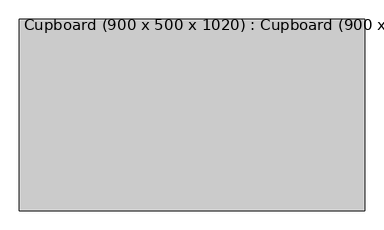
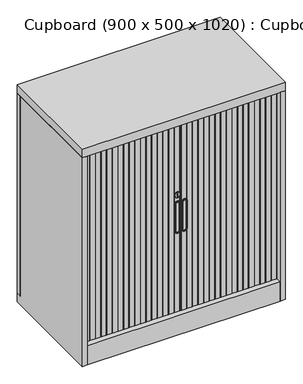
"""IFC4 building model written with IfcOpenShell, lengths in millimetres: furniture geometry, Cupboard (900 x 500 x 1020) : Cupboard (900 x 500 x 1020)."""

from ifc_helpers import new_model, si_unit, point, frame, frame_2d, origin, origin_with_axes, place, context, project, spatial, polyline, circle_curve, ellipse_curve, trimmed, segment, composite_curve, outline, extrude, faceted_brep, source, transform, mapped, element, save
from ifc_brep_helpers import plane_surface, cylinder_surface, revolved_surface, advanced_brep


def cupboard_900_x_500_x_1020_cupboard_900_x_500_x_1020_58e128f4(model_context):
    return source(origin(), model_context, "Body", "SolidModel", [
        advanced_brep(
        [(26.5273848, -229.0, 471.9022034), (26.5273848, -229.0, 598.0527572), (4.5273848, -229.0, 598.0527572), (4.5273848, -229.0, 471.9022034), (6.5273848, -229.0, 472.046184), (6.5273848, -229.0, 598.0415606), (24.5273848, -229.0, 598.0415606), (24.5273848, -229.0, 472.046184), (3.5273848, -228.0, 471.9022034), (3.5273848, -226.0, 471.9022034), (27.5273848, -226.0, 471.9022034), (27.5273848, -228.0, 471.9022034), (27.5273848, -220.0, 471.9022034), (27.5273848, -220.0, 598.0527572), (27.5273848, -226.0, 598.0527572), (27.5273848, -228.0, 598.0527572), (3.5273848, -226.0, 598.0527572), (3.5273848, -228.0, 598.0527572), (3.5273848, -220.0, 598.0527572), (3.5273848, -220.0, 471.9022034), (7.5273848, -228.0, 598.0415606), (7.5273848, -226.0, 598.0415606), (23.5273848, -226.0, 598.0415606), (23.5273848, -228.0, 598.0415606), (23.5273848, -226.0, 472.046184), (23.5273848, -228.0, 472.046184), (7.5273848, -226.0, 472.046184), (7.5273848, -228.0, 472.046184)],
        [
            (0, 1),
            (1, 2, circle_curve(frame((15.5273848, -229.0, 598.0527572), z_axis=(0.0, -1.0, 0.0), x_axis=(-1.0, 0.0, 0.0)), 11.0)),
            (2, 3),
            (3, 0, circle_curve(frame((15.5273848, -229.0, 471.9022034), z_axis=(0.0, -1.0, 0.0), x_axis=(1.0, 0.0, 0.0)), 11.0)),
            (4, 5),
            (5, 6, circle_curve(frame((15.5273848, -229.0, 598.0415606), z_axis=(0.0, 1.0, 0.0), x_axis=(1.0, 0.0, 0.0)), 9.0)),
            (6, 7),
            (7, 4, circle_curve(frame((15.5273848, -229.0, 472.046184), z_axis=(0.0, 1.0, 0.0), x_axis=(-1.0, 0.0, 0.0)), 9.0)),
            (8, 9),
            (9, 10, circle_curve(frame((15.5273848, -226.0, 471.9022034), z_axis=(0.0, -1.0, 0.0), x_axis=(1.0, 0.0, 0.0)), 12.0)),
            (10, 11),
            (11, 8, circle_curve(frame((15.5273848, -228.0, 471.9022034), z_axis=(0.0, 1.0, 0.0), x_axis=(1.0, 0.0, 0.0)), 12.0)),
            (10, 12),
            (12, 13),
            (13, 14),
            (14, 15),
            (15, 11),
            (14, 16, circle_curve(frame((15.5273848, -226.0, 598.0527572), z_axis=(0.0, -1.0, 0.0), x_axis=(1.0, 0.0, 0.0)), 12.0)),
            (16, 17),
            (17, 15, circle_curve(frame((15.5273848, -228.0, 598.0527572), z_axis=(0.0, 1.0, 0.0), x_axis=(1.0, 0.0, 0.0)), 12.0)),
            (8, 17),
            (16, 18),
            (18, 19),
            (19, 9),
            (20, 21),
            (21, 22, circle_curve(frame((15.5273848, -226.0, 598.0415606), z_axis=(0.0, 1.0, 0.0), x_axis=(1.0, 0.0, 0.0)), 8.0)),
            (22, 23),
            (23, 20, circle_curve(frame((15.5273848, -228.0, 598.0415606), z_axis=(0.0, -1.0, 0.0), x_axis=(1.0, 0.0, 0.0)), 8.0)),
            (22, 24),
            (24, 25),
            (25, 23),
            (24, 26, circle_curve(frame((15.5273848, -226.0, 472.046184), z_axis=(0.0, 1.0, 0.0), x_axis=(1.0, 0.0, 0.0)), 8.0)),
            (26, 27),
            (27, 25, circle_curve(frame((15.5273848, -228.0, 472.046184), z_axis=(0.0, -1.0, 0.0), x_axis=(1.0, 0.0, 0.0)), 8.0)),
            (20, 27),
            (26, 21),
            (4, 27, circle_curve(frame((6.5273848, -228.0, 472.046184), z_axis=(0.0, 0.0, 1.0), x_axis=(-1.0, 0.0, 0.0)), 1.0)),
            (20, 5, circle_curve(frame((6.5273848, -228.0, 598.0415606), z_axis=(0.0, 0.0, -1.0), x_axis=(-1.0, 0.0, 0.0)), 1.0)),
            (7, 25, circle_curve(frame((24.5273848, -228.0, 472.046184), z_axis=(0.0, 0.0, -1.0), x_axis=(1.0, 0.0, 0.0)), 1.0)),
            (6, 23, circle_curve(frame((24.5273848, -228.0, 598.0415606), z_axis=(0.0, 0.0, -1.0), x_axis=(1.0, 0.0, 0.0)), 1.0)),
            (0, 11, circle_curve(frame((26.5273848, -228.0, 471.9022034), z_axis=(0.0, 0.0, 1.0), x_axis=(1.0, 0.0, 0.0)), 1.0)),
            (15, 1, circle_curve(frame((26.5273848, -228.0, 598.0527572), z_axis=(0.0, 0.0, -1.0), x_axis=(1.0, 0.0, 0.0)), 1.0)),
            (3, 8, circle_curve(frame((4.5273848, -228.0, 471.9022034), z_axis=(0.0, 0.0, -1.0), x_axis=(-1.0, 0.0, 0.0)), 1.0)),
            (2, 17, circle_curve(frame((4.5273848, -228.0, 598.0527572), z_axis=(0.0, 0.0, -1.0), x_axis=(-1.0, 0.0, 0.0)), 1.0)),
            (18, 13, circle_curve(frame((15.5273848, -220.0, 598.0527572), z_axis=(0.0, 1.0, 0.0), x_axis=(1.0, 0.0, 0.0)), 12.0)),
            (12, 19, circle_curve(frame((15.5273848, -220.0, 471.9022034), z_axis=(0.0, 1.0, 0.0), x_axis=(1.0, 0.0, 0.0)), 12.0)),
        ],
        [
            plane_surface(frame((27.5273848, -229.0, 471.9022034), z_axis=(0.0, -1.0, 0.0), x_axis=(0.0, 0.0, 1.0))),
            cylinder_surface(frame((15.5273848, -226.0, 471.9022034), z_axis=(0.0, -1.0, 0.0), x_axis=(1.0, 0.0, 0.0)), 12.0),
            plane_surface(frame((27.5273848, -229.0, 471.9022034), z_axis=(1.0, 0.0, 0.0), x_axis=(0.0, 1.0, 0.0))),
            cylinder_surface(frame((15.5273848, -226.0, 598.0527572), z_axis=(0.0, -1.0, 0.0), x_axis=(1.0, 0.0, 0.0)), 12.0),
            plane_surface(frame((3.5273848, -229.0, 598.0527572), z_axis=(-1.0, 0.0, 0.0), x_axis=(0.0, 1.0, 0.0))),
            revolved_surface(polyline([(23.5273848, -226.0, 598.0415606), (23.5273848, -228.0, 598.0415606)]), (15.5273848, -229.0, 598.0415606), (0.0, 1.0, 0.0)),
            plane_surface(frame((23.5273848, -229.0, 598.0415606), z_axis=(-1.0, 0.0, 0.0), x_axis=(0.0, 1.0, 0.0))),
            revolved_surface(polyline([(23.5273848, -226.0, 472.046184), (23.5273848, -228.0, 472.046184)]), (15.5273848, -229.0, 472.046184), (0.0, 1.0, 0.0)),
            plane_surface(frame((7.5273848, -229.0, 472.046184), z_axis=(1.0, 0.0, 0.0), x_axis=(0.0, 1.0, 0.0))),
            cylinder_surface(frame((6.5273848, -228.0, 598.0415606), z_axis=(0.0, 0.0, -1.0), x_axis=(-1.0, 0.0, 0.0)), 1.0),
            revolved_surface(trimmed(ellipse_curve(frame((6.5273848, -228.0, 472.046184), z_axis=(0.0, 0.0, 1.0), x_axis=(-1.0, 0.0, 0.0)), 1.0, 1.0), [point((6.5273848, -229.0, 472.046184))], [point((7.5273848, -228.0, 472.046184))], True, "CARTESIAN"), (15.5273848, -229.0, 472.046184), (0.0, -1.0, 0.0)),
            cylinder_surface(frame((24.5273848, -228.0, 472.046184), z_axis=(0.0, 0.0, 1.0), x_axis=(1.0, 0.0, 0.0)), 1.0),
            revolved_surface(trimmed(ellipse_curve(frame((24.5273848, -228.0, 598.0415606), z_axis=(0.0, 0.0, -1.0), x_axis=(1.0, 0.0, 0.0)), 1.0, 1.0), [point((24.5273848, -229.0, 598.0415606))], [point((23.5273848, -228.0, 598.0415606))], True, "CARTESIAN"), (15.5273848, -229.0, 598.0415606), (0.0, -1.0, 0.0)),
            cylinder_surface(frame((26.5273848, -228.0, 598.0527572), z_axis=(0.0, 0.0, -1.0), x_axis=(1.0, 0.0, 0.0)), 1.0),
            revolved_surface(trimmed(ellipse_curve(frame((26.5273848, -228.0, 471.9022034), z_axis=(0.0, 0.0, 1.0), x_axis=(1.0, 0.0, 0.0)), 1.0, 1.0), [point((26.5273848, -229.0, 471.9022034))], [point((27.5273848, -228.0, 471.9022034))], True, "CARTESIAN"), (15.5273848, -229.0, 471.9022034), (0.0, 1.0, 0.0)),
            cylinder_surface(frame((4.5273848, -228.0, 471.9022034), z_axis=(0.0, 0.0, 1.0), x_axis=(-1.0, 0.0, 0.0)), 1.0),
            revolved_surface(trimmed(ellipse_curve(frame((4.5273848, -228.0, 598.0527572), z_axis=(0.0, 0.0, -1.0), x_axis=(-1.0, 0.0, 0.0)), 1.0, 1.0), [point((4.5273848, -229.0, 598.0527572))], [point((3.5273848, -228.0, 598.0527572))], True, "CARTESIAN"), (15.5273848, -229.0, 598.0527572), (0.0, 1.0, 0.0)),
            plane_surface(frame((27.5273848, -226.0, 471.9022034), z_axis=(0.0, -1.0, 0.0), x_axis=(0.0, 0.0, 1.0))),
            plane_surface(frame((27.5273848, -220.0, 471.9022034), z_axis=(0.0, 1.0, 0.0), x_axis=(0.0, 0.0, -1.0))),
            cylinder_surface(frame((15.5273848, -220.0, 471.9022034), z_axis=(0.0, -1.0, 0.0), x_axis=(1.0, 0.0, 0.0)), 12.0),
            cylinder_surface(frame((15.5273848, -220.0, 598.0527572), z_axis=(0.0, -1.0, 0.0), x_axis=(1.0, 0.0, 0.0)), 12.0),
        ],
        [
            (0, [[1, 2, 3, 4], [5, 6, 7, 8]]),
            (1, [[9, 10, 11, 12]]),
            (2, [[-11, 13, 14, 15, 16, 17]]),
            (3, [[-16, 18, 19, 20]]),
            (4, [[-9, 21, -19, 22, 23, 24]]),
            (5, [[25, 26, 27, 28]]),
            (6, [[-27, 29, 30, 31]]),
            (7, [[-30, 32, 33, 34]]),
            (8, [[-25, 35, -33, 36]]),
            (9, [[37, -35, 38, -5]]),
            (10, [[-37, -8, 39, -34]]),
            (11, [[-39, -7, 40, -31]]),
            (12, [[-38, -28, -40, -6]]),
            (13, [[41, -17, 42, -1]]),
            (14, [[-41, -4, 43, -12]]),
            (15, [[-43, -3, 44, -21]]),
            (16, [[-42, -20, -44, -2]]),
            (17, [[-26, -36, -32, -29]]),
            (18, [[-23, 45, -14, 46]]),
            (19, [[-46, -13, -10, -24]]),
            (20, [[-45, -22, -18, -15]]),
        ],
    ),
        advanced_brep(
        [(-26.8154748, -229.0, 639.9505671), (-3.7101479, -229.0, 639.9505671), (-14.2354266, -229.0, 646.0185691), (-14.2354266, -229.0, 634.0185691), (-16.2354266, -229.0, 634.0185691), (-16.2354266, -229.0, 646.0185691), (-27.8154748, -220.0, 639.9505671), (-2.7101479, -220.0, 639.9505671), (-14.2354266, -220.0, 646.0185691), (-16.2354266, -220.0, 646.0185691), (-16.2354266, -220.0, 634.0185691), (-14.2354266, -220.0, 634.0185691), (-2.7101479, -228.0, 639.9505671), (-27.8154748, -228.0, 639.9505671)],
        [
            (0, 1, circle_curve(frame((-15.2628114, -229.0, 639.9505671), z_axis=(0.0, -1.0, 0.0), x_axis=(1.0, 0.0, 0.0)), 11.5526635)),
            (1, 0, circle_curve(frame((-15.2628114, -229.0, 639.9505671), z_axis=(0.0, -1.0, 0.0), x_axis=(-1.0, 0.0, 0.0)), 11.5526635)),
            (2, 3),
            (3, 4),
            (4, 5),
            (5, 2),
            (6, 7, circle_curve(frame((-15.2628114, -220.0, 639.9505671), z_axis=(0.0, 1.0, 0.0), x_axis=(1.0, 0.0, 0.0)), 12.5526635)),
            (7, 6, circle_curve(frame((-15.2628114, -220.0, 639.9505671), z_axis=(0.0, 1.0, 0.0), x_axis=(1.0, 0.0, 0.0)), 12.5526635)),
            (8, 9),
            (9, 10),
            (10, 11),
            (11, 8),
            (7, 12),
            (12, 13, circle_curve(frame((-15.2628114, -228.0, 639.9505671), z_axis=(0.0, 1.0, 0.0), x_axis=(1.0, 0.0, 0.0)), 12.5526635)),
            (13, 6),
            (13, 12, circle_curve(frame((-15.2628114, -228.0, 639.9505671), z_axis=(0.0, 1.0, 0.0), x_axis=(1.0, 0.0, 0.0)), 12.5526635)),
            (2, 8),
            (11, 3),
            (10, 4),
            (9, 5),
            (0, 13, circle_curve(frame((-26.8154748, -228.0, 639.9505671), z_axis=(0.0, 0.0, -1.0), x_axis=(-1.0, 0.0, 0.0)), 1.0)),
            (12, 1, circle_curve(frame((-3.7101479, -228.0, 639.9505671), z_axis=(0.0, 0.0, -1.0), x_axis=(1.0, 0.0, 0.0)), 1.0)),
        ],
        [
            plane_surface(frame((-2.7101479, -229.0, 639.9505671), z_axis=(0.0, -1.0, 0.0), x_axis=(0.0, 0.0, 1.0))),
            plane_surface(frame((-2.7101479, -220.0, 639.9505671), z_axis=(0.0, 1.0, 0.0), x_axis=(0.0, 0.0, -1.0))),
            cylinder_surface(frame((-15.2628114, -220.0, 639.9505671), z_axis=(0.0, -1.0, 0.0), x_axis=(1.0, 0.0, 0.0)), 12.5526635),
            plane_surface(frame((-14.2354266, -229.0, 646.0185691), z_axis=(-1.0, 0.0, 0.0), x_axis=(0.0, 1.0, 0.0))),
            plane_surface(frame((-14.2354266, -229.0, 634.0185691), z_axis=(0.0, 0.0, 1.0), x_axis=(0.0, 1.0, 0.0))),
            plane_surface(frame((-16.2354266, -229.0, 634.0185691), z_axis=(1.0, 0.0, 0.0), x_axis=(0.0, 1.0, 0.0))),
            plane_surface(frame((-16.2354266, -229.0, 646.0185691), z_axis=(0.0, 0.0, -1.0), x_axis=(0.0, 1.0, 0.0))),
            revolved_surface(trimmed(ellipse_curve(frame((-3.7101479, -228.0, 639.9505671), z_axis=(0.0, 0.0, 1.0), x_axis=(1.0, 0.0, 0.0)), 1.0, 1.0), [point((-3.7101479, -229.0, 639.9505671))], [point((-2.7101479, -228.0, 639.9505671))], True, "CARTESIAN"), (-15.2628114, -229.0, 639.9505671), (0.0, 1.0, 0.0)),
            revolved_surface(trimmed(ellipse_curve(frame((-26.8154748, -228.0, 639.9505671), z_axis=(0.0, 0.0, -1.0), x_axis=(-1.0, 0.0, 0.0)), 1.0, 1.0), [point((-26.8154748, -229.0, 639.9505671))], [point((-27.8154748, -228.0, 639.9505671))], True, "CARTESIAN"), (-15.2628114, -229.0, 639.9505671), (0.0, 1.0, 0.0)),
        ],
        [
            (0, [[1, 2], [3, 4, 5, 6]]),
            (1, [[7, 8], [9, 10, 11, 12]]),
            (2, [[-8, 13, 14, 15]]),
            (2, [[-7, -15, 16, -13]]),
            (3, [[-3, 17, -12, 18]]),
            (4, [[-4, -18, -11, 19]]),
            (5, [[-5, -19, -10, 20]]),
            (6, [[-6, -20, -9, -17]]),
            (7, [[21, -14, 22, -1]]),
            (8, [[-21, -2, -22, -16]]),
        ],
    ),
        advanced_brep(
        [(-4.2354266, -229.0, 471.9022034), (-4.2354266, -229.0, 598.0527572), (-26.2354266, -229.0, 598.0527572), (-26.2354266, -229.0, 471.9022034), (-24.2354266, -229.0, 472.046184), (-24.2354266, -229.0, 598.0415606), (-6.2354266, -229.0, 598.0415606), (-6.2354266, -229.0, 472.046184), (-27.2354266, -228.0, 471.9022034), (-27.2354266, -226.0, 471.9022034), (-3.2354266, -226.0, 471.9022034), (-3.2354266, -228.0, 471.9022034), (-3.2354266, -220.0, 471.9022034), (-3.2354266, -220.0, 598.0527572), (-3.2354266, -226.0, 598.0527572), (-3.2354266, -228.0, 598.0527572), (-27.2354266, -226.0, 598.0527572), (-27.2354266, -228.0, 598.0527572), (-27.2354266, -220.0, 598.0527572), (-27.2354266, -220.0, 471.9022034), (-23.2354266, -228.0, 598.0415606), (-23.2354266, -226.0, 598.0415606), (-7.2354266, -226.0, 598.0415606), (-7.2354266, -228.0, 598.0415606), (-7.2354266, -226.0, 472.046184), (-7.2354266, -228.0, 472.046184), (-23.2354266, -226.0, 472.046184), (-23.2354266, -228.0, 472.046184)],
        [
            (0, 1),
            (1, 2, circle_curve(frame((-15.2354266, -229.0, 598.0527572), z_axis=(0.0, -1.0, 0.0), x_axis=(-1.0, 0.0, 0.0)), 11.0)),
            (2, 3),
            (3, 0, circle_curve(frame((-15.2354266, -229.0, 471.9022034), z_axis=(0.0, -1.0, 0.0), x_axis=(1.0, 0.0, 0.0)), 11.0)),
            (4, 5),
            (5, 6, circle_curve(frame((-15.2354266, -229.0, 598.0415606), z_axis=(0.0, 1.0, 0.0), x_axis=(1.0, 0.0, 0.0)), 9.0)),
            (6, 7),
            (7, 4, circle_curve(frame((-15.2354266, -229.0, 472.046184), z_axis=(0.0, 1.0, 0.0), x_axis=(-1.0, 0.0, 0.0)), 9.0)),
            (8, 9),
            (9, 10, circle_curve(frame((-15.2354266, -226.0, 471.9022034), z_axis=(0.0, -1.0, 0.0), x_axis=(1.0, 0.0, 0.0)), 12.0)),
            (10, 11),
            (11, 8, circle_curve(frame((-15.2354266, -228.0, 471.9022034), z_axis=(0.0, 1.0, 0.0), x_axis=(1.0, 0.0, 0.0)), 12.0)),
            (10, 12),
            (12, 13),
            (13, 14),
            (14, 15),
            (15, 11),
            (14, 16, circle_curve(frame((-15.2354266, -226.0, 598.0527572), z_axis=(0.0, -1.0, 0.0), x_axis=(1.0, 0.0, 0.0)), 12.0)),
            (16, 17),
            (17, 15, circle_curve(frame((-15.2354266, -228.0, 598.0527572), z_axis=(0.0, 1.0, 0.0), x_axis=(1.0, 0.0, 0.0)), 12.0)),
            (8, 17),
            (16, 18),
            (18, 19),
            (19, 9),
            (20, 21),
            (21, 22, circle_curve(frame((-15.2354266, -226.0, 598.0415606), z_axis=(0.0, 1.0, 0.0), x_axis=(1.0, 0.0, 0.0)), 8.0)),
            (22, 23),
            (23, 20, circle_curve(frame((-15.2354266, -228.0, 598.0415606), z_axis=(0.0, -1.0, 0.0), x_axis=(1.0, 0.0, 0.0)), 8.0)),
            (22, 24),
            (24, 25),
            (25, 23),
            (24, 26, circle_curve(frame((-15.2354266, -226.0, 472.046184), z_axis=(0.0, 1.0, 0.0), x_axis=(1.0, 0.0, 0.0)), 8.0)),
            (26, 27),
            (27, 25, circle_curve(frame((-15.2354266, -228.0, 472.046184), z_axis=(0.0, -1.0, 0.0), x_axis=(1.0, 0.0, 0.0)), 8.0)),
            (20, 27),
            (26, 21),
            (4, 27, circle_curve(frame((-24.2354266, -228.0, 472.046184), z_axis=(0.0, 0.0, 1.0), x_axis=(-1.0, 0.0, 0.0)), 1.0)),
            (20, 5, circle_curve(frame((-24.2354266, -228.0, 598.0415606), z_axis=(0.0, 0.0, -1.0), x_axis=(-1.0, 0.0, 0.0)), 1.0)),
            (7, 25, circle_curve(frame((-6.2354266, -228.0, 472.046184), z_axis=(0.0, 0.0, -1.0), x_axis=(1.0, 0.0, 0.0)), 1.0)),
            (6, 23, circle_curve(frame((-6.2354266, -228.0, 598.0415606), z_axis=(0.0, 0.0, -1.0), x_axis=(1.0, 0.0, 0.0)), 1.0)),
            (0, 11, circle_curve(frame((-4.2354266, -228.0, 471.9022034), z_axis=(0.0, 0.0, 1.0), x_axis=(1.0, 0.0, 0.0)), 1.0)),
            (15, 1, circle_curve(frame((-4.2354266, -228.0, 598.0527572), z_axis=(0.0, 0.0, -1.0), x_axis=(1.0, 0.0, 0.0)), 1.0)),
            (3, 8, circle_curve(frame((-26.2354266, -228.0, 471.9022034), z_axis=(0.0, 0.0, -1.0), x_axis=(-1.0, 0.0, 0.0)), 1.0)),
            (2, 17, circle_curve(frame((-26.2354266, -228.0, 598.0527572), z_axis=(0.0, 0.0, -1.0), x_axis=(-1.0, 0.0, 0.0)), 1.0)),
            (18, 13, circle_curve(frame((-15.2354266, -220.0, 598.0527572), z_axis=(0.0, 1.0, 0.0), x_axis=(1.0, 0.0, 0.0)), 12.0)),
            (12, 19, circle_curve(frame((-15.2354266, -220.0, 471.9022034), z_axis=(0.0, 1.0, 0.0), x_axis=(1.0, 0.0, 0.0)), 12.0)),
        ],
        [
            plane_surface(frame((-3.2354266, -229.0, 471.9022034), z_axis=(0.0, -1.0, 0.0), x_axis=(0.0, 0.0, 1.0))),
            cylinder_surface(frame((-15.2354266, -226.0, 471.9022034), z_axis=(0.0, -1.0, 0.0), x_axis=(1.0, 0.0, 0.0)), 12.0),
            plane_surface(frame((-3.2354266, -229.0, 471.9022034), z_axis=(1.0, 0.0, 0.0), x_axis=(0.0, 1.0, 0.0))),
            cylinder_surface(frame((-15.2354266, -226.0, 598.0527572), z_axis=(0.0, -1.0, 0.0), x_axis=(1.0, 0.0, 0.0)), 12.0),
            plane_surface(frame((-27.2354266, -229.0, 598.0527572), z_axis=(-1.0, 0.0, 0.0), x_axis=(0.0, 1.0, 0.0))),
            revolved_surface(polyline([(-7.2354266, -226.0, 598.0415606), (-7.2354266, -228.0, 598.0415606)]), (-15.2354266, -229.0, 598.0415606), (0.0, 1.0, 0.0)),
            plane_surface(frame((-7.2354266, -229.0, 598.0415606), z_axis=(-1.0, 0.0, 0.0), x_axis=(0.0, 1.0, 0.0))),
            revolved_surface(polyline([(-7.2354266, -226.0, 472.046184), (-7.2354266, -228.0, 472.046184)]), (-15.2354266, -229.0, 472.046184), (0.0, 1.0, 0.0)),
            plane_surface(frame((-23.2354266, -229.0, 472.046184), z_axis=(1.0, 0.0, 0.0), x_axis=(0.0, 1.0, 0.0))),
            cylinder_surface(frame((-24.2354266, -228.0, 598.0415606), z_axis=(0.0, 0.0, -1.0), x_axis=(-1.0, 0.0, 0.0)), 1.0),
            revolved_surface(trimmed(ellipse_curve(frame((-24.2354266, -228.0, 472.046184), z_axis=(0.0, 0.0, 1.0), x_axis=(-1.0, 0.0, 0.0)), 1.0, 1.0), [point((-24.2354266, -229.0, 472.046184))], [point((-23.2354266, -228.0, 472.046184))], True, "CARTESIAN"), (-15.2354266, -229.0, 472.046184), (0.0, -1.0, 0.0)),
            cylinder_surface(frame((-6.2354266, -228.0, 472.046184), z_axis=(0.0, 0.0, 1.0), x_axis=(1.0, 0.0, 0.0)), 1.0),
            revolved_surface(trimmed(ellipse_curve(frame((-6.2354266, -228.0, 598.0415606), z_axis=(0.0, 0.0, -1.0), x_axis=(1.0, 0.0, 0.0)), 1.0, 1.0), [point((-6.2354266, -229.0, 598.0415606))], [point((-7.2354266, -228.0, 598.0415606))], True, "CARTESIAN"), (-15.2354266, -229.0, 598.0415606), (0.0, -1.0, 0.0)),
            cylinder_surface(frame((-4.2354266, -228.0, 598.0527572), z_axis=(0.0, 0.0, -1.0), x_axis=(1.0, 0.0, 0.0)), 1.0),
            revolved_surface(trimmed(ellipse_curve(frame((-4.2354266, -228.0, 471.9022034), z_axis=(0.0, 0.0, 1.0), x_axis=(1.0, 0.0, 0.0)), 1.0, 1.0), [point((-4.2354266, -229.0, 471.9022034))], [point((-3.2354266, -228.0, 471.9022034))], True, "CARTESIAN"), (-15.2354266, -229.0, 471.9022034), (0.0, 1.0, 0.0)),
            cylinder_surface(frame((-26.2354266, -228.0, 471.9022034), z_axis=(0.0, 0.0, 1.0), x_axis=(-1.0, 0.0, 0.0)), 1.0),
            revolved_surface(trimmed(ellipse_curve(frame((-26.2354266, -228.0, 598.0527572), z_axis=(0.0, 0.0, -1.0), x_axis=(-1.0, 0.0, 0.0)), 1.0, 1.0), [point((-26.2354266, -229.0, 598.0527572))], [point((-27.2354266, -228.0, 598.0527572))], True, "CARTESIAN"), (-15.2354266, -229.0, 598.0527572), (0.0, 1.0, 0.0)),
            plane_surface(frame((-3.2354266, -226.0, 471.9022034), z_axis=(0.0, -1.0, 0.0), x_axis=(0.0, 0.0, 1.0))),
            plane_surface(frame((-3.2354266, -220.0, 471.9022034), z_axis=(0.0, 1.0, 0.0), x_axis=(0.0, 0.0, -1.0))),
            cylinder_surface(frame((-15.2354266, -220.0, 471.9022034), z_axis=(0.0, -1.0, 0.0), x_axis=(1.0, 0.0, 0.0)), 12.0),
            cylinder_surface(frame((-15.2354266, -220.0, 598.0527572), z_axis=(0.0, -1.0, 0.0), x_axis=(1.0, 0.0, 0.0)), 12.0),
        ],
        [
            (0, [[1, 2, 3, 4], [5, 6, 7, 8]]),
            (1, [[9, 10, 11, 12]]),
            (2, [[-11, 13, 14, 15, 16, 17]]),
            (3, [[-16, 18, 19, 20]]),
            (4, [[-9, 21, -19, 22, 23, 24]]),
            (5, [[25, 26, 27, 28]]),
            (6, [[-27, 29, 30, 31]]),
            (7, [[-30, 32, 33, 34]]),
            (8, [[-25, 35, -33, 36]]),
            (9, [[37, -35, 38, -5]]),
            (10, [[-37, -8, 39, -34]]),
            (11, [[-39, -7, 40, -31]]),
            (12, [[-38, -28, -40, -6]]),
            (13, [[41, -17, 42, -1]]),
            (14, [[-41, -4, 43, -12]]),
            (15, [[-43, -3, 44, -21]]),
            (16, [[-42, -20, -44, -2]]),
            (17, [[-26, -36, -32, -29]]),
            (18, [[-23, 45, -14, 46]]),
            (19, [[-46, -13, -10, -24]]),
            (20, [[-45, -22, -18, -15]]),
        ],
    ),
        extrude(outline(composite_curve([segment(polyline([(3.0, -220.0), (28.0, -220.0), (28.0, -223.0)]), True, "CONTINUOUS"), segment(trimmed(circle_curve(frame_2d((26.0, -223.0)), 2.0), [point((28.0, -223.0))], [point((26.0, -225.0))], False, "CARTESIAN"), True, "CONTINUOUS"), segment(polyline([(26.0, -225.0), (5.0, -225.0)]), True, "CONTINUOUS"), segment(trimmed(circle_curve(frame_2d((5.0, -223.0)), 2.0), [point((5.0, -225.0))], [point((3.0, -223.0))], False, "CARTESIAN"), True, "CONTINUOUS"), segment(polyline([(3.0, -223.0), (3.0, -220.0)]), True, "CONTINUOUS")], self_intersect=False)), frame((0.0, 0.0, 90.0), z_axis=(0.0, 0.0, 1.0), x_axis=(1.0, 0.0, 0.0)), (0.0, 0.0, 1.0), 889.5),
        extrude(outline(composite_curve([segment(polyline([(28.0, -220.0), (53.0, -220.0), (53.0, -223.0)]), True, "CONTINUOUS"), segment(trimmed(circle_curve(frame_2d((51.0, -223.0)), 2.0), [point((53.0, -223.0))], [point((51.0, -225.0))], False, "CARTESIAN"), True, "CONTINUOUS"), segment(polyline([(51.0, -225.0), (30.0, -225.0)]), True, "CONTINUOUS"), segment(trimmed(circle_curve(frame_2d((30.0, -223.0)), 2.0), [point((30.0, -225.0))], [point((28.0, -223.0))], False, "CARTESIAN"), True, "CONTINUOUS"), segment(polyline([(28.0, -223.0), (28.0, -220.0)]), True, "CONTINUOUS")], self_intersect=False)), frame((0.0, 0.0, 90.0), z_axis=(0.0, 0.0, 1.0), x_axis=(1.0, 0.0, 0.0)), (0.0, 0.0, 1.0), 889.5),
        extrude(outline(composite_curve([segment(polyline([(53.0, -220.0), (78.0, -220.0), (78.0, -223.0)]), True, "CONTINUOUS"), segment(trimmed(circle_curve(frame_2d((76.0, -223.0)), 2.0), [point((78.0, -223.0))], [point((76.0, -225.0))], False, "CARTESIAN"), True, "CONTINUOUS"), segment(polyline([(76.0, -225.0), (55.0, -225.0)]), True, "CONTINUOUS"), segment(trimmed(circle_curve(frame_2d((55.0, -223.0)), 2.0), [point((55.0, -225.0))], [point((53.0, -223.0))], False, "CARTESIAN"), True, "CONTINUOUS"), segment(polyline([(53.0, -223.0), (53.0, -220.0)]), True, "CONTINUOUS")], self_intersect=False)), frame((0.0, 0.0, 90.0), z_axis=(0.0, 0.0, 1.0), x_axis=(1.0, 0.0, 0.0)), (0.0, 0.0, 1.0), 889.5),
        extrude(outline(composite_curve([segment(polyline([(78.0, -220.0), (103.0, -220.0), (103.0, -223.0)]), True, "CONTINUOUS"), segment(trimmed(circle_curve(frame_2d((101.0, -223.0)), 2.0), [point((103.0, -223.0))], [point((101.0, -225.0))], False, "CARTESIAN"), True, "CONTINUOUS"), segment(polyline([(101.0, -225.0), (80.0, -225.0)]), True, "CONTINUOUS"), segment(trimmed(circle_curve(frame_2d((80.0, -223.0)), 2.0), [point((80.0, -225.0))], [point((78.0, -223.0))], False, "CARTESIAN"), True, "CONTINUOUS"), segment(polyline([(78.0, -223.0), (78.0, -220.0)]), True, "CONTINUOUS")], self_intersect=False)), frame((0.0, 0.0, 90.0), z_axis=(0.0, 0.0, 1.0), x_axis=(1.0, 0.0, 0.0)), (0.0, 0.0, 1.0), 889.5),
        extrude(outline(composite_curve([segment(polyline([(103.0, -220.0), (128.0, -220.0), (128.0, -223.0)]), True, "CONTINUOUS"), segment(trimmed(circle_curve(frame_2d((126.0, -223.0)), 2.0), [point((128.0, -223.0))], [point((126.0, -225.0))], False, "CARTESIAN"), True, "CONTINUOUS"), segment(polyline([(126.0, -225.0), (105.0, -225.0)]), True, "CONTINUOUS"), segment(trimmed(circle_curve(frame_2d((105.0, -223.0)), 2.0), [point((105.0, -225.0))], [point((103.0, -223.0))], False, "CARTESIAN"), True, "CONTINUOUS"), segment(polyline([(103.0, -223.0), (103.0, -220.0)]), True, "CONTINUOUS")], self_intersect=False)), frame((0.0, 0.0, 90.0), z_axis=(0.0, 0.0, 1.0), x_axis=(1.0, 0.0, 0.0)), (0.0, 0.0, 1.0), 889.5),
        extrude(outline(composite_curve([segment(polyline([(128.0, -220.0), (153.0, -220.0), (153.0, -223.0)]), True, "CONTINUOUS"), segment(trimmed(circle_curve(frame_2d((151.0, -223.0)), 2.0), [point((153.0, -223.0))], [point((151.0, -225.0))], False, "CARTESIAN"), True, "CONTINUOUS"), segment(polyline([(151.0, -225.0), (130.0, -225.0)]), True, "CONTINUOUS"), segment(trimmed(circle_curve(frame_2d((130.0, -223.0)), 2.0), [point((130.0, -225.0))], [point((128.0, -223.0))], False, "CARTESIAN"), True, "CONTINUOUS"), segment(polyline([(128.0, -223.0), (128.0, -220.0)]), True, "CONTINUOUS")], self_intersect=False)), frame((0.0, 0.0, 90.0), z_axis=(0.0, 0.0, 1.0), x_axis=(1.0, 0.0, 0.0)), (0.0, 0.0, 1.0), 889.5),
        extrude(outline(composite_curve([segment(polyline([(153.0, -220.0), (178.0, -220.0), (178.0, -223.0)]), True, "CONTINUOUS"), segment(trimmed(circle_curve(frame_2d((176.0, -223.0)), 2.0), [point((178.0, -223.0))], [point((176.0, -225.0))], False, "CARTESIAN"), True, "CONTINUOUS"), segment(polyline([(176.0, -225.0), (155.0, -225.0)]), True, "CONTINUOUS"), segment(trimmed(circle_curve(frame_2d((155.0, -223.0)), 2.0), [point((155.0, -225.0))], [point((153.0, -223.0))], False, "CARTESIAN"), True, "CONTINUOUS"), segment(polyline([(153.0, -223.0), (153.0, -220.0)]), True, "CONTINUOUS")], self_intersect=False)), frame((0.0, 0.0, 90.0), z_axis=(0.0, 0.0, 1.0), x_axis=(1.0, 0.0, 0.0)), (0.0, 0.0, 1.0), 889.5),
        extrude(outline(composite_curve([segment(polyline([(178.0, -220.0), (203.0, -220.0), (203.0, -223.0)]), True, "CONTINUOUS"), segment(trimmed(circle_curve(frame_2d((201.0, -223.0)), 2.0), [point((203.0, -223.0))], [point((201.0, -225.0))], False, "CARTESIAN"), True, "CONTINUOUS"), segment(polyline([(201.0, -225.0), (180.0, -225.0)]), True, "CONTINUOUS"), segment(trimmed(circle_curve(frame_2d((180.0, -223.0)), 2.0), [point((180.0, -225.0))], [point((178.0, -223.0))], False, "CARTESIAN"), True, "CONTINUOUS"), segment(polyline([(178.0, -223.0), (178.0, -220.0)]), True, "CONTINUOUS")], self_intersect=False)), frame((0.0, 0.0, 90.0), z_axis=(0.0, 0.0, 1.0), x_axis=(1.0, 0.0, 0.0)), (0.0, 0.0, 1.0), 889.5),
        extrude(outline(composite_curve([segment(polyline([(203.0, -220.0), (228.0, -220.0), (228.0, -223.0)]), True, "CONTINUOUS"), segment(trimmed(circle_curve(frame_2d((226.0, -223.0)), 2.0), [point((228.0, -223.0))], [point((226.0, -225.0))], False, "CARTESIAN"), True, "CONTINUOUS"), segment(polyline([(226.0, -225.0), (205.0, -225.0)]), True, "CONTINUOUS"), segment(trimmed(circle_curve(frame_2d((205.0, -223.0)), 2.0), [point((205.0, -225.0))], [point((203.0, -223.0))], False, "CARTESIAN"), True, "CONTINUOUS"), segment(polyline([(203.0, -223.0), (203.0, -220.0)]), True, "CONTINUOUS")], self_intersect=False)), frame((0.0, 0.0, 90.0), z_axis=(0.0, 0.0, 1.0), x_axis=(1.0, 0.0, 0.0)), (0.0, 0.0, 1.0), 889.5),
        extrude(outline(composite_curve([segment(polyline([(228.0, -220.0), (253.0, -220.0), (253.0, -223.0)]), True, "CONTINUOUS"), segment(trimmed(circle_curve(frame_2d((251.0, -223.0)), 2.0), [point((253.0, -223.0))], [point((251.0, -225.0))], False, "CARTESIAN"), True, "CONTINUOUS"), segment(polyline([(251.0, -225.0), (230.0, -225.0)]), True, "CONTINUOUS"), segment(trimmed(circle_curve(frame_2d((230.0, -223.0)), 2.0), [point((230.0, -225.0))], [point((228.0, -223.0))], False, "CARTESIAN"), True, "CONTINUOUS"), segment(polyline([(228.0, -223.0), (228.0, -220.0)]), True, "CONTINUOUS")], self_intersect=False)), frame((0.0, 0.0, 90.0), z_axis=(0.0, 0.0, 1.0), x_axis=(1.0, 0.0, 0.0)), (0.0, 0.0, 1.0), 889.5),
        extrude(outline(composite_curve([segment(polyline([(253.0, -220.0), (278.0, -220.0), (278.0, -223.0)]), True, "CONTINUOUS"), segment(trimmed(circle_curve(frame_2d((276.0, -223.0)), 2.0), [point((278.0, -223.0))], [point((276.0, -225.0))], False, "CARTESIAN"), True, "CONTINUOUS"), segment(polyline([(276.0, -225.0), (255.0, -225.0)]), True, "CONTINUOUS"), segment(trimmed(circle_curve(frame_2d((255.0, -223.0)), 2.0), [point((255.0, -225.0))], [point((253.0, -223.0))], False, "CARTESIAN"), True, "CONTINUOUS"), segment(polyline([(253.0, -223.0), (253.0, -220.0)]), True, "CONTINUOUS")], self_intersect=False)), frame((0.0, 0.0, 90.0), z_axis=(0.0, 0.0, 1.0), x_axis=(1.0, 0.0, 0.0)), (0.0, 0.0, 1.0), 889.5),
        extrude(outline(composite_curve([segment(polyline([(278.0, -220.0), (303.0, -220.0), (303.0, -223.0)]), True, "CONTINUOUS"), segment(trimmed(circle_curve(frame_2d((301.0, -223.0)), 2.0), [point((303.0, -223.0))], [point((301.0, -225.0))], False, "CARTESIAN"), True, "CONTINUOUS"), segment(polyline([(301.0, -225.0), (280.0, -225.0)]), True, "CONTINUOUS"), segment(trimmed(circle_curve(frame_2d((280.0, -223.0)), 2.0), [point((280.0, -225.0))], [point((278.0, -223.0))], False, "CARTESIAN"), True, "CONTINUOUS"), segment(polyline([(278.0, -223.0), (278.0, -220.0)]), True, "CONTINUOUS")], self_intersect=False)), frame((0.0, 0.0, 90.0), z_axis=(0.0, 0.0, 1.0), x_axis=(1.0, 0.0, 0.0)), (0.0, 0.0, 1.0), 889.5),
        extrude(outline(composite_curve([segment(polyline([(303.0, -220.0), (328.0, -220.0), (328.0, -223.0)]), True, "CONTINUOUS"), segment(trimmed(circle_curve(frame_2d((326.0, -223.0)), 2.0), [point((328.0, -223.0))], [point((326.0, -225.0))], False, "CARTESIAN"), True, "CONTINUOUS"), segment(polyline([(326.0, -225.0), (305.0, -225.0)]), True, "CONTINUOUS"), segment(trimmed(circle_curve(frame_2d((305.0, -223.0)), 2.0), [point((305.0, -225.0))], [point((303.0, -223.0))], False, "CARTESIAN"), True, "CONTINUOUS"), segment(polyline([(303.0, -223.0), (303.0, -220.0)]), True, "CONTINUOUS")], self_intersect=False)), frame((0.0, 0.0, 90.0), z_axis=(0.0, 0.0, 1.0), x_axis=(1.0, 0.0, 0.0)), (0.0, 0.0, 1.0), 889.5),
        extrude(outline(composite_curve([segment(polyline([(328.0, -220.0), (353.0, -220.0), (353.0, -223.0)]), True, "CONTINUOUS"), segment(trimmed(circle_curve(frame_2d((351.0, -223.0)), 2.0), [point((353.0, -223.0))], [point((351.0, -225.0))], False, "CARTESIAN"), True, "CONTINUOUS"), segment(polyline([(351.0, -225.0), (330.0, -225.0)]), True, "CONTINUOUS"), segment(trimmed(circle_curve(frame_2d((330.0, -223.0)), 2.0), [point((330.0, -225.0))], [point((328.0, -223.0))], False, "CARTESIAN"), True, "CONTINUOUS"), segment(polyline([(328.0, -223.0), (328.0, -220.0)]), True, "CONTINUOUS")], self_intersect=False)), frame((0.0, 0.0, 90.0), z_axis=(0.0, 0.0, 1.0), x_axis=(1.0, 0.0, 0.0)), (0.0, 0.0, 1.0), 889.5),
        extrude(outline(composite_curve([segment(polyline([(353.0, -220.0), (378.0, -220.0), (378.0, -223.0)]), True, "CONTINUOUS"), segment(trimmed(circle_curve(frame_2d((376.0, -223.0)), 2.0), [point((378.0, -223.0))], [point((376.0, -225.0))], False, "CARTESIAN"), True, "CONTINUOUS"), segment(polyline([(376.0, -225.0), (355.0, -225.0)]), True, "CONTINUOUS"), segment(trimmed(circle_curve(frame_2d((355.0, -223.0)), 2.0), [point((355.0, -225.0))], [point((353.0, -223.0))], False, "CARTESIAN"), True, "CONTINUOUS"), segment(polyline([(353.0, -223.0), (353.0, -220.0)]), True, "CONTINUOUS")], self_intersect=False)), frame((0.0, 0.0, 90.0), z_axis=(0.0, 0.0, 1.0), x_axis=(1.0, 0.0, 0.0)), (0.0, 0.0, 1.0), 889.5),
        extrude(outline(composite_curve([segment(polyline([(378.0, -220.0), (403.0, -220.0), (403.0, -223.0)]), True, "CONTINUOUS"), segment(trimmed(circle_curve(frame_2d((401.0, -223.0)), 2.0), [point((403.0, -223.0))], [point((401.0, -225.0))], False, "CARTESIAN"), True, "CONTINUOUS"), segment(polyline([(401.0, -225.0), (380.0, -225.0)]), True, "CONTINUOUS"), segment(trimmed(circle_curve(frame_2d((380.0, -223.0)), 2.0), [point((380.0, -225.0))], [point((378.0, -223.0))], False, "CARTESIAN"), True, "CONTINUOUS"), segment(polyline([(378.0, -223.0), (378.0, -220.0)]), True, "CONTINUOUS")], self_intersect=False)), frame((0.0, 0.0, 90.0), z_axis=(0.0, 0.0, 1.0), x_axis=(1.0, 0.0, 0.0)), (0.0, 0.0, 1.0), 889.5),
        extrude(outline(composite_curve([segment(polyline([(403.0, -220.0), (428.0, -220.0), (428.0, -223.0)]), True, "CONTINUOUS"), segment(trimmed(circle_curve(frame_2d((426.0, -223.0)), 2.0), [point((428.0, -223.0))], [point((426.0, -225.0))], False, "CARTESIAN"), True, "CONTINUOUS"), segment(polyline([(426.0, -225.0), (405.0, -225.0)]), True, "CONTINUOUS"), segment(trimmed(circle_curve(frame_2d((405.0, -223.0)), 2.0), [point((405.0, -225.0))], [point((403.0, -223.0))], False, "CARTESIAN"), True, "CONTINUOUS"), segment(polyline([(403.0, -223.0), (403.0, -220.0)]), True, "CONTINUOUS")], self_intersect=False)), frame((0.0, 0.0, 90.0), z_axis=(0.0, 0.0, 1.0), x_axis=(1.0, 0.0, 0.0)), (0.0, 0.0, 1.0), 889.5),
        extrude(outline(composite_curve([segment(polyline([(3.0, -220.0), (3.0, -223.5)]), True, "CONTINUOUS"), segment(trimmed(circle_curve(frame_2d((1.5, -223.5)), 1.5), [point((3.0, -223.5))], [point((1.5, -225.0))], False, "CARTESIAN"), True, "CONTINUOUS"), segment(polyline([(1.5, -225.0), (0.5, -225.0), (0.5, -220.0), (3.0, -220.0)]), True, "CONTINUOUS")], self_intersect=False)), frame((0.0, 0.0, 90.0), z_axis=(0.0, 0.0, 1.0), x_axis=(1.0, 0.0, 0.0)), (0.0, 0.0, 1.0), 889.5),
        extrude(outline(composite_curve([segment(polyline([(-3.0, -220.0), (-3.0, -223.0)]), True, "CONTINUOUS"), segment(trimmed(circle_curve(frame_2d((-5.0, -223.0)), 2.0), [point((-3.0, -223.0))], [point((-5.0, -225.0))], False, "CARTESIAN"), True, "CONTINUOUS"), segment(polyline([(-5.0, -225.0), (-26.0, -225.0)]), True, "CONTINUOUS"), segment(trimmed(circle_curve(frame_2d((-26.0, -223.0)), 2.0), [point((-26.0, -225.0))], [point((-28.0, -223.0))], False, "CARTESIAN"), True, "CONTINUOUS"), segment(polyline([(-28.0, -223.0), (-28.0, -220.0), (-3.0, -220.0)]), True, "CONTINUOUS")], self_intersect=False)), frame((0.0, 0.0, 90.0), z_axis=(0.0, 0.0, 1.0), x_axis=(1.0, 0.0, 0.0)), (0.0, 0.0, 1.0), 889.5),
        extrude(outline(composite_curve([segment(polyline([(-28.0, -220.0), (-28.0, -223.0)]), True, "CONTINUOUS"), segment(trimmed(circle_curve(frame_2d((-30.0, -223.0)), 2.0), [point((-28.0, -223.0))], [point((-30.0, -225.0))], False, "CARTESIAN"), True, "CONTINUOUS"), segment(polyline([(-30.0, -225.0), (-51.0, -225.0)]), True, "CONTINUOUS"), segment(trimmed(circle_curve(frame_2d((-51.0, -223.0)), 2.0), [point((-51.0, -225.0))], [point((-53.0, -223.0))], False, "CARTESIAN"), True, "CONTINUOUS"), segment(polyline([(-53.0, -223.0), (-53.0, -220.0), (-28.0, -220.0)]), True, "CONTINUOUS")], self_intersect=False)), frame((0.0, 0.0, 90.0), z_axis=(0.0, 0.0, 1.0), x_axis=(1.0, 0.0, 0.0)), (0.0, 0.0, 1.0), 889.5),
        extrude(outline(composite_curve([segment(polyline([(-53.0, -220.0), (-53.0, -223.0)]), True, "CONTINUOUS"), segment(trimmed(circle_curve(frame_2d((-55.0, -223.0)), 2.0), [point((-53.0, -223.0))], [point((-55.0, -225.0))], False, "CARTESIAN"), True, "CONTINUOUS"), segment(polyline([(-55.0, -225.0), (-76.0, -225.0)]), True, "CONTINUOUS"), segment(trimmed(circle_curve(frame_2d((-76.0, -223.0)), 2.0), [point((-76.0, -225.0))], [point((-78.0, -223.0))], False, "CARTESIAN"), True, "CONTINUOUS"), segment(polyline([(-78.0, -223.0), (-78.0, -220.0), (-53.0, -220.0)]), True, "CONTINUOUS")], self_intersect=False)), frame((0.0, 0.0, 90.0), z_axis=(0.0, 0.0, 1.0), x_axis=(1.0, 0.0, 0.0)), (0.0, 0.0, 1.0), 889.5),
        extrude(outline(composite_curve([segment(polyline([(-78.0, -220.0), (-78.0, -223.0)]), True, "CONTINUOUS"), segment(trimmed(circle_curve(frame_2d((-80.0, -223.0)), 2.0), [point((-78.0, -223.0))], [point((-80.0, -225.0))], False, "CARTESIAN"), True, "CONTINUOUS"), segment(polyline([(-80.0, -225.0), (-101.0, -225.0)]), True, "CONTINUOUS"), segment(trimmed(circle_curve(frame_2d((-101.0, -223.0)), 2.0), [point((-101.0, -225.0))], [point((-103.0, -223.0))], False, "CARTESIAN"), True, "CONTINUOUS"), segment(polyline([(-103.0, -223.0), (-103.0, -220.0), (-78.0, -220.0)]), True, "CONTINUOUS")], self_intersect=False)), frame((0.0, 0.0, 90.0), z_axis=(0.0, 0.0, 1.0), x_axis=(1.0, 0.0, 0.0)), (0.0, 0.0, 1.0), 889.5),
        extrude(outline(composite_curve([segment(polyline([(-103.0, -220.0), (-103.0, -223.0)]), True, "CONTINUOUS"), segment(trimmed(circle_curve(frame_2d((-105.0, -223.0)), 2.0), [point((-103.0, -223.0))], [point((-105.0, -225.0))], False, "CARTESIAN"), True, "CONTINUOUS"), segment(polyline([(-105.0, -225.0), (-126.0, -225.0)]), True, "CONTINUOUS"), segment(trimmed(circle_curve(frame_2d((-126.0, -223.0)), 2.0), [point((-126.0, -225.0))], [point((-128.0, -223.0))], False, "CARTESIAN"), True, "CONTINUOUS"), segment(polyline([(-128.0, -223.0), (-128.0, -220.0), (-103.0, -220.0)]), True, "CONTINUOUS")], self_intersect=False)), frame((0.0, 0.0, 90.0), z_axis=(0.0, 0.0, 1.0), x_axis=(1.0, 0.0, 0.0)), (0.0, 0.0, 1.0), 889.5),
        extrude(outline(composite_curve([segment(polyline([(-128.0, -220.0), (-128.0, -223.0)]), True, "CONTINUOUS"), segment(trimmed(circle_curve(frame_2d((-130.0, -223.0)), 2.0), [point((-128.0, -223.0))], [point((-130.0, -225.0))], False, "CARTESIAN"), True, "CONTINUOUS"), segment(polyline([(-130.0, -225.0), (-151.0, -225.0)]), True, "CONTINUOUS"), segment(trimmed(circle_curve(frame_2d((-151.0, -223.0)), 2.0), [point((-151.0, -225.0))], [point((-153.0, -223.0))], False, "CARTESIAN"), True, "CONTINUOUS"), segment(polyline([(-153.0, -223.0), (-153.0, -220.0), (-128.0, -220.0)]), True, "CONTINUOUS")], self_intersect=False)), frame((0.0, 0.0, 90.0), z_axis=(0.0, 0.0, 1.0), x_axis=(1.0, 0.0, 0.0)), (0.0, 0.0, 1.0), 889.5),
        extrude(outline(composite_curve([segment(polyline([(-153.0, -220.0), (-153.0, -223.0)]), True, "CONTINUOUS"), segment(trimmed(circle_curve(frame_2d((-155.0, -223.0)), 2.0), [point((-153.0, -223.0))], [point((-155.0, -225.0))], False, "CARTESIAN"), True, "CONTINUOUS"), segment(polyline([(-155.0, -225.0), (-176.0, -225.0)]), True, "CONTINUOUS"), segment(trimmed(circle_curve(frame_2d((-176.0, -223.0)), 2.0), [point((-176.0, -225.0))], [point((-178.0, -223.0))], False, "CARTESIAN"), True, "CONTINUOUS"), segment(polyline([(-178.0, -223.0), (-178.0, -220.0), (-153.0, -220.0)]), True, "CONTINUOUS")], self_intersect=False)), frame((0.0, 0.0, 90.0), z_axis=(0.0, 0.0, 1.0), x_axis=(1.0, 0.0, 0.0)), (0.0, 0.0, 1.0), 889.5),
        extrude(outline(composite_curve([segment(polyline([(-178.0, -220.0), (-178.0, -223.0)]), True, "CONTINUOUS"), segment(trimmed(circle_curve(frame_2d((-180.0, -223.0)), 2.0), [point((-178.0, -223.0))], [point((-180.0, -225.0))], False, "CARTESIAN"), True, "CONTINUOUS"), segment(polyline([(-180.0, -225.0), (-201.0, -225.0)]), True, "CONTINUOUS"), segment(trimmed(circle_curve(frame_2d((-201.0, -223.0)), 2.0), [point((-201.0, -225.0))], [point((-203.0, -223.0))], False, "CARTESIAN"), True, "CONTINUOUS"), segment(polyline([(-203.0, -223.0), (-203.0, -220.0), (-178.0, -220.0)]), True, "CONTINUOUS")], self_intersect=False)), frame((0.0, 0.0, 90.0), z_axis=(0.0, 0.0, 1.0), x_axis=(1.0, 0.0, 0.0)), (0.0, 0.0, 1.0), 889.5),
        extrude(outline(composite_curve([segment(polyline([(-203.0, -220.0), (-203.0, -223.0)]), True, "CONTINUOUS"), segment(trimmed(circle_curve(frame_2d((-205.0, -223.0)), 2.0), [point((-203.0, -223.0))], [point((-205.0, -225.0))], False, "CARTESIAN"), True, "CONTINUOUS"), segment(polyline([(-205.0, -225.0), (-226.0, -225.0)]), True, "CONTINUOUS"), segment(trimmed(circle_curve(frame_2d((-226.0, -223.0)), 2.0), [point((-226.0, -225.0))], [point((-228.0, -223.0))], False, "CARTESIAN"), True, "CONTINUOUS"), segment(polyline([(-228.0, -223.0), (-228.0, -220.0), (-203.0, -220.0)]), True, "CONTINUOUS")], self_intersect=False)), frame((0.0, 0.0, 90.0), z_axis=(0.0, 0.0, 1.0), x_axis=(1.0, 0.0, 0.0)), (0.0, 0.0, 1.0), 889.5),
        extrude(outline(composite_curve([segment(polyline([(-228.0, -220.0), (-228.0, -223.0)]), True, "CONTINUOUS"), segment(trimmed(circle_curve(frame_2d((-230.0, -223.0)), 2.0), [point((-228.0, -223.0))], [point((-230.0, -225.0))], False, "CARTESIAN"), True, "CONTINUOUS"), segment(polyline([(-230.0, -225.0), (-251.0, -225.0)]), True, "CONTINUOUS"), segment(trimmed(circle_curve(frame_2d((-251.0, -223.0)), 2.0), [point((-251.0, -225.0))], [point((-253.0, -223.0))], False, "CARTESIAN"), True, "CONTINUOUS"), segment(polyline([(-253.0, -223.0), (-253.0, -220.0), (-228.0, -220.0)]), True, "CONTINUOUS")], self_intersect=False)), frame((0.0, 0.0, 90.0), z_axis=(0.0, 0.0, 1.0), x_axis=(1.0, 0.0, 0.0)), (0.0, 0.0, 1.0), 889.5),
        extrude(outline(composite_curve([segment(polyline([(-253.0, -220.0), (-253.0, -223.0)]), True, "CONTINUOUS"), segment(trimmed(circle_curve(frame_2d((-255.0, -223.0)), 2.0), [point((-253.0, -223.0))], [point((-255.0, -225.0))], False, "CARTESIAN"), True, "CONTINUOUS"), segment(polyline([(-255.0, -225.0), (-276.0, -225.0)]), True, "CONTINUOUS"), segment(trimmed(circle_curve(frame_2d((-276.0, -223.0)), 2.0), [point((-276.0, -225.0))], [point((-278.0, -223.0))], False, "CARTESIAN"), True, "CONTINUOUS"), segment(polyline([(-278.0, -223.0), (-278.0, -220.0), (-253.0, -220.0)]), True, "CONTINUOUS")], self_intersect=False)), frame((0.0, 0.0, 90.0), z_axis=(0.0, 0.0, 1.0), x_axis=(1.0, 0.0, 0.0)), (0.0, 0.0, 1.0), 889.5),
        extrude(outline(composite_curve([segment(polyline([(-278.0, -220.0), (-278.0, -223.0)]), True, "CONTINUOUS"), segment(trimmed(circle_curve(frame_2d((-280.0, -223.0)), 2.0), [point((-278.0, -223.0))], [point((-280.0, -225.0))], False, "CARTESIAN"), True, "CONTINUOUS"), segment(polyline([(-280.0, -225.0), (-301.0, -225.0)]), True, "CONTINUOUS"), segment(trimmed(circle_curve(frame_2d((-301.0, -223.0)), 2.0), [point((-301.0, -225.0))], [point((-303.0, -223.0))], False, "CARTESIAN"), True, "CONTINUOUS"), segment(polyline([(-303.0, -223.0), (-303.0, -220.0), (-278.0, -220.0)]), True, "CONTINUOUS")], self_intersect=False)), frame((0.0, 0.0, 90.0), z_axis=(0.0, 0.0, 1.0), x_axis=(1.0, 0.0, 0.0)), (0.0, 0.0, 1.0), 889.5),
        extrude(outline(composite_curve([segment(polyline([(-303.0, -220.0), (-303.0, -223.0)]), True, "CONTINUOUS"), segment(trimmed(circle_curve(frame_2d((-305.0, -223.0)), 2.0), [point((-303.0, -223.0))], [point((-305.0, -225.0))], False, "CARTESIAN"), True, "CONTINUOUS"), segment(polyline([(-305.0, -225.0), (-326.0, -225.0)]), True, "CONTINUOUS"), segment(trimmed(circle_curve(frame_2d((-326.0, -223.0)), 2.0), [point((-326.0, -225.0))], [point((-328.0, -223.0))], False, "CARTESIAN"), True, "CONTINUOUS"), segment(polyline([(-328.0, -223.0), (-328.0, -220.0), (-303.0, -220.0)]), True, "CONTINUOUS")], self_intersect=False)), frame((0.0, 0.0, 90.0), z_axis=(0.0, 0.0, 1.0), x_axis=(1.0, 0.0, 0.0)), (0.0, 0.0, 1.0), 889.5),
        extrude(outline(composite_curve([segment(polyline([(-328.0, -220.0), (-328.0, -223.0)]), True, "CONTINUOUS"), segment(trimmed(circle_curve(frame_2d((-330.0, -223.0)), 2.0), [point((-328.0, -223.0))], [point((-330.0, -225.0))], False, "CARTESIAN"), True, "CONTINUOUS"), segment(polyline([(-330.0, -225.0), (-351.0, -225.0)]), True, "CONTINUOUS"), segment(trimmed(circle_curve(frame_2d((-351.0, -223.0)), 2.0), [point((-351.0, -225.0))], [point((-353.0, -223.0))], False, "CARTESIAN"), True, "CONTINUOUS"), segment(polyline([(-353.0, -223.0), (-353.0, -220.0), (-328.0, -220.0)]), True, "CONTINUOUS")], self_intersect=False)), frame((0.0, 0.0, 90.0), z_axis=(0.0, 0.0, 1.0), x_axis=(1.0, 0.0, 0.0)), (0.0, 0.0, 1.0), 889.5),
        extrude(outline(composite_curve([segment(polyline([(-353.0, -220.0), (-353.0, -223.0)]), True, "CONTINUOUS"), segment(trimmed(circle_curve(frame_2d((-355.0, -223.0)), 2.0), [point((-353.0, -223.0))], [point((-355.0, -225.0))], False, "CARTESIAN"), True, "CONTINUOUS"), segment(polyline([(-355.0, -225.0), (-376.0, -225.0)]), True, "CONTINUOUS"), segment(trimmed(circle_curve(frame_2d((-376.0, -223.0)), 2.0), [point((-376.0, -225.0))], [point((-378.0, -223.0))], False, "CARTESIAN"), True, "CONTINUOUS"), segment(polyline([(-378.0, -223.0), (-378.0, -220.0), (-353.0, -220.0)]), True, "CONTINUOUS")], self_intersect=False)), frame((0.0, 0.0, 90.0), z_axis=(0.0, 0.0, 1.0), x_axis=(1.0, 0.0, 0.0)), (0.0, 0.0, 1.0), 889.5),
        extrude(outline(composite_curve([segment(polyline([(-378.0, -220.0), (-378.0, -223.0)]), True, "CONTINUOUS"), segment(trimmed(circle_curve(frame_2d((-380.0, -223.0)), 2.0), [point((-378.0, -223.0))], [point((-380.0, -225.0))], False, "CARTESIAN"), True, "CONTINUOUS"), segment(polyline([(-380.0, -225.0), (-401.0, -225.0)]), True, "CONTINUOUS"), segment(trimmed(circle_curve(frame_2d((-401.0, -223.0)), 2.0), [point((-401.0, -225.0))], [point((-403.0, -223.0))], False, "CARTESIAN"), True, "CONTINUOUS"), segment(polyline([(-403.0, -223.0), (-403.0, -220.0), (-378.0, -220.0)]), True, "CONTINUOUS")], self_intersect=False)), frame((0.0, 0.0, 90.0), z_axis=(0.0, 0.0, 1.0), x_axis=(1.0, 0.0, 0.0)), (0.0, 0.0, 1.0), 889.5),
        extrude(outline(composite_curve([segment(polyline([(-403.0, -220.0), (-403.0, -223.0)]), True, "CONTINUOUS"), segment(trimmed(circle_curve(frame_2d((-405.0, -223.0)), 2.0), [point((-403.0, -223.0))], [point((-405.0, -225.0))], False, "CARTESIAN"), True, "CONTINUOUS"), segment(polyline([(-405.0, -225.0), (-426.0, -225.0)]), True, "CONTINUOUS"), segment(trimmed(circle_curve(frame_2d((-426.0, -223.0)), 2.0), [point((-426.0, -225.0))], [point((-428.0, -223.0))], False, "CARTESIAN"), True, "CONTINUOUS"), segment(polyline([(-428.0, -223.0), (-428.0, -220.0), (-403.0, -220.0)]), True, "CONTINUOUS")], self_intersect=False)), frame((0.0, 0.0, 90.0), z_axis=(0.0, 0.0, 1.0), x_axis=(1.0, 0.0, 0.0)), (0.0, 0.0, 1.0), 889.5),
        extrude(outline(composite_curve([segment(polyline([(-3.0, -220.0), (-0.5, -220.0), (-0.5, -225.0), (-1.5, -225.0)]), True, "CONTINUOUS"), segment(trimmed(circle_curve(frame_2d((-1.5, -223.5)), 1.5), [point((-1.5, -225.0))], [point((-3.0, -223.5))], False, "CARTESIAN"), True, "CONTINUOUS"), segment(polyline([(-3.0, -223.5), (-3.0, -220.0)]), True, "CONTINUOUS")], self_intersect=False)), frame((0.0, 0.0, 90.0), z_axis=(0.0, 0.0, 1.0), x_axis=(1.0, 0.0, 0.0)), (0.0, 0.0, 1.0), 889.5),
        faceted_brep([(-428.0, 227.0, 979.5), (-450.0, 227.0, 979.5), (-450.0, -250.0, 979.5), (-428.0, -250.0, 979.5), (450.0, 227.0, 979.5), (428.0, 227.0, 979.5), (428.0, -250.0, 979.5), (450.0, -250.0, 979.5), (-428.0, 227.0, 40.0), (-450.0, 227.0, 40.0), (-450.0, 250.0, 40.0), (-450.0, 250.0, 0.0), (-450.0, -250.0, 0.0), (-428.0, -250.0, 0.0), (-428.0, -200.0, 0.0), (-428.0, -200.0, 40.0), (450.0, 227.0, 40.0), (428.0, 227.0, 40.0), (428.0, -200.0, 40.0), (428.0, -200.0, 0.0), (428.0, -250.0, 0.0), (450.0, -250.0, 0.0), (450.0, 250.0, 0.0), (450.0, 250.0, 40.0)], [[[0, 1, 2, 3]], [[4, 5, 6, 7]], [[1, 0, 8, 9]], [[2, 1, 9, 10, 11, 12]], [[3, 2, 12, 13]], [[0, 3, 13, 14, 15, 8]], [[5, 4, 16, 17]], [[6, 5, 17, 18, 19, 20]], [[7, 6, 20, 21]], [[4, 7, 21, 22, 23, 16]], [[15, 18, 17, 16, 23, 10, 9, 8]], [[11, 22, 21, 20, 19, 14, 13, 12]], [[10, 23, 22, 11]], [[18, 15, 14, 19]]]),
        extrude(outline(polyline([(450.0, 250.0), (450.0, 228.0), (-450.0, 228.0), (-450.0, 250.0), (450.0, 250.0)])), frame((0.0, 0.0, 40.0), z_axis=(0.0, 0.0, 1.0), x_axis=(1.0, 0.0, 0.0)), (0.0, 0.0, 1.0), 939.5),
        extrude(outline(polyline([(428.0, -200.0), (428.0, -250.0), (-428.0, -250.0), (-428.0, -200.0), (428.0, -200.0)])), origin_with_axes(), (0.0, 0.0, 1.0), 90.0),
        extrude(outline(polyline([(-450.0, 250.0), (450.0, 250.0), (450.0, -250.0), (-450.0, -250.0), (-450.0, 250.0)])), frame((0.0, 0.0, 980.0), z_axis=(0.0, 0.0, 1.0), x_axis=(1.0, 0.0, 0.0)), (0.0, 0.0, 1.0), 40.0),
    ])


if __name__ == "__main__":
    model = new_model("IFC4")
    model_context = context("Model", 3, world=origin())
    ifc_project = project(units=[si_unit("LENGTHUNIT", "METRE", prefix="MILLI")], contexts=[model_context])
    site = spatial("IfcSite", under=ifc_project)
    building = spatial("IfcBuilding", under=site)
    placement = place(None, origin())
    cupboard_900_x_500_x_1020_cupboard_900_x_500_x_1020_shape = cupboard_900_x_500_x_1020_cupboard_900_x_500_x_1020_58e128f4(model_context)
    element("IfcFurniture", 1, ObjectType="Cupboard (900 x 500 x 1020) : Cupboard (900 x 500 x 1020)", at=placement, inside=building, context=model_context, shape_type="MappedRepresentation", body=[
        mapped(cupboard_900_x_500_x_1020_cupboard_900_x_500_x_1020_shape, transform((0.0, 0.0, 0.0), x_axis=(1.0, 0.0, 0.0), y_axis=(0.0, 1.0, 0.0), z_axis=(0.0, 0.0, 1.0))),
    ])
    save(model, "model.ifc")
